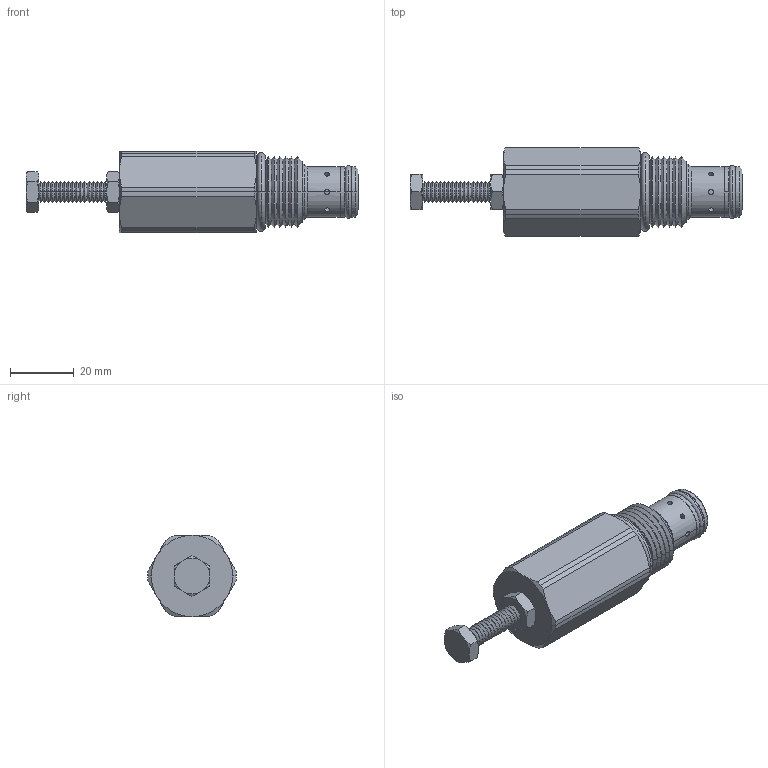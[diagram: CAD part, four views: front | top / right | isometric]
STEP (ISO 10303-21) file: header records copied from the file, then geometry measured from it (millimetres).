
FILE_DESCRIPTION((''),'2;1');
FILE_NAME('U:\Solid model CD\Solid model full\Mechanical\STEP\DEFCA00-3D Full.stp','2008-07-28T16:02:19',('Dan'),(''),'Autodesk Inventor 9','Autodesk Inventor 9','');
FILE_SCHEMA(('AUTOMOTIVE_DESIGN { 1 0 10303 214 1 1 1 1 }'));
Length unit declared in the file: inch
Products named in the file (5): DEFCA00-3D Full; DEFCA00-3D Full1; DEFCA00-3D Full2; DEFCA00-3D Full3; DEFCA00-3D Full4
Assembly tree (4 placements, depth 2):
  DEFCA00-3D Full
    DEFCA00-3D Full1
    DEFCA00-3D Full2
    DEFCA00-3D Full3
    DEFCA00-3D Full4
Bounding box: 103.9 x 27.76 x 25.4 mm (x, y, z)
Volume: 33470 mm3; surface area: 9901.8 mm2
Topology: 4 solids, 4 shells, 271 faces, 623 edges, 371 vertices
Faces by surface type: cone 140, cylinder 72, plane 39, bspline 16, torus 4
Entity records: 8774 total; most frequent: CARTESIAN_POINT 2678, DIRECTION 1296, ORIENTED_EDGE 1246, EDGE_CURVE 623, AXIS2_PLACEMENT_3D 547, VERTEX_POINT 371, EDGE_LOOP 304, CIRCLE 283
